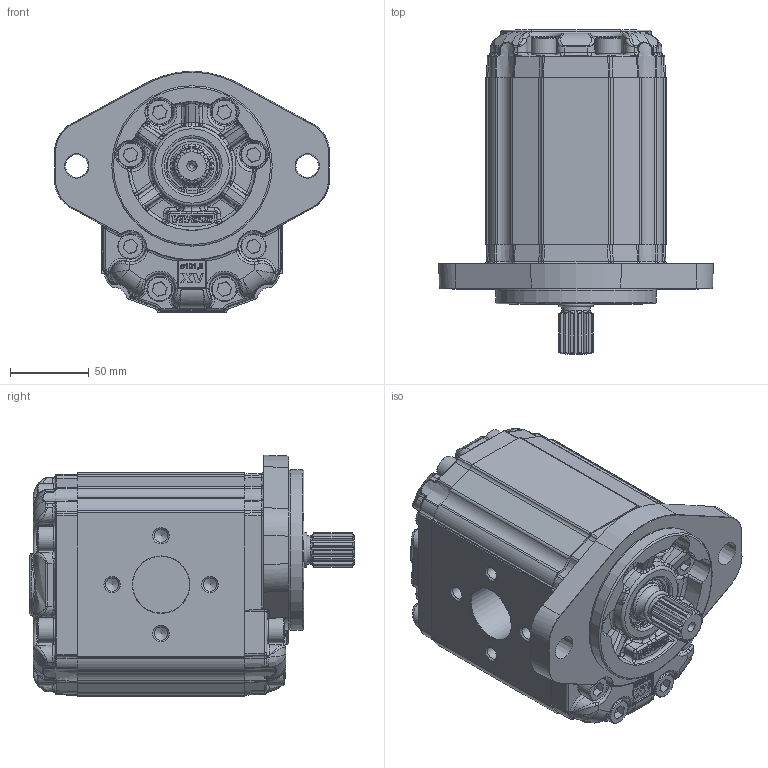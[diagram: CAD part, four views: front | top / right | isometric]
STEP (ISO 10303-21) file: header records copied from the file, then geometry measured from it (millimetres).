
FILE_DESCRIPTION(/* description */ ('Unknown'),/* implementation_level */ '2;1');
FILE_NAME(/* name */ 'X3R8531ICCF',/* time_stamp */ '2021-04-26T17:08:29+02:00',/* author */ ('Unknown'),/* organization */ ('Unknown'),/* preprocessor_version */ 'ST-DEVELOPER v16.7',/* originating_system */ 'Solid Edge',/* authorisation */ 'Unknown');
FILE_SCHEMA (('AUTOMOTIVE_DESIGN {1 0 10303 214 3 1 1}'));
Products named in the file (5): X3R8531ICCF; X3R31; 3I; X3CCH106; XR331-F
Assembly tree (4 placements, depth 2):
  X3R8531ICCF
    X3R31
    3I
    X3CCH106
    XR331-F
Bounding box: 174 x 205.2 x 153 mm (x, y, z)
Volume: 2339450 mm3; surface area: 218442.9 mm2
Topology: 4 solids, 21 shells, 3062 faces, 7898 edges, 4993 vertices
Faces by surface type: bspline 1317, plane 876, cylinder 654, cone 105, torus 94, sphere 16
Full cylindrical faces by diameter (mm): 2 x2, 8.376 x8, 10 x16, 15.8 x16, 16 x16, 18 x2, 24.98 x1, 25 x2, 25.968 x1, 28.16 x1, 31.293 x1, 32.742 x1, 34.956 x1, 35 x1, 35.2 x1, 36 x2, 37 x1, 101.6 x1
Entity records: 162906 total; most frequent: CARTESIAN_POINT 82491, ORIENTED_EDGE 15348, EDGE_CURVE 7674, DIRECTION 6756, B_SPLINE_CURVE_WITH_KNOTS 4985, VERTEX_POINT 4932, FACE_BOUND 3354, EDGE_LOOP 3344
